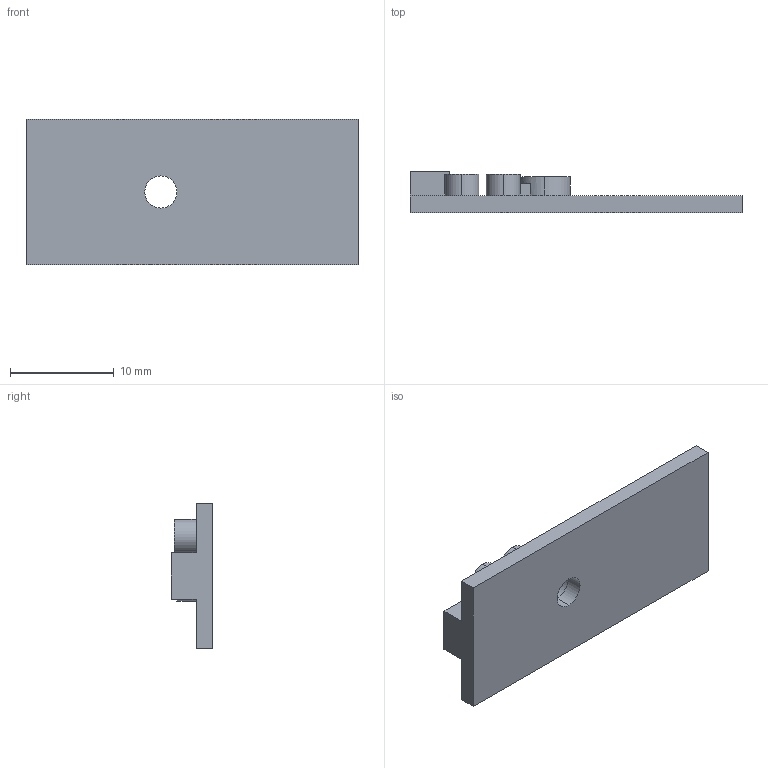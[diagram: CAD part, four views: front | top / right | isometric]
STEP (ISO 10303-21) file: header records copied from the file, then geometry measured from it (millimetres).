
FILE_DESCRIPTION(('Open CASCADE Model'),'2;1');
FILE_NAME('opposite-frame-mounted-fsr-amplifier-pcb.step', '2026-11-14T16:52:08',('Author'),('Open CASCADE'), 'Open CASCADE STEP processor 8.0','Open CASCADE 8.0','Unknown');
FILE_SCHEMA(('AP242_MANAGED_MODEL_BASED_3D_ENGINEERING_MIM_LF {1 0 10303 442 1 1 4 }' ));
Length unit declared in the file: millimetre
Products named in the file (1): Opposite Frame Mounted FSR Amplifier PCB
Bounding box: 32 x 4 x 14 mm (x, y, z)
Volume: 811.5 mm3; surface area: 1179 mm2
Topology: 1 solids, 1 shells, 26 faces, 62 edges, 41 vertices
Faces by surface type: plane 17, cylinder 9
Full cylindrical faces by diameter (mm): 3.1 x1
Entity records: 1631 total; most frequent: CARTESIAN_POINT 344, DIRECTION 244, LINE 150, VECTOR 150, ORIENTED_EDGE 124, PCURVE 124, DEFINITIONAL_REPRESENTATION 124, EDGE_CURVE 62
